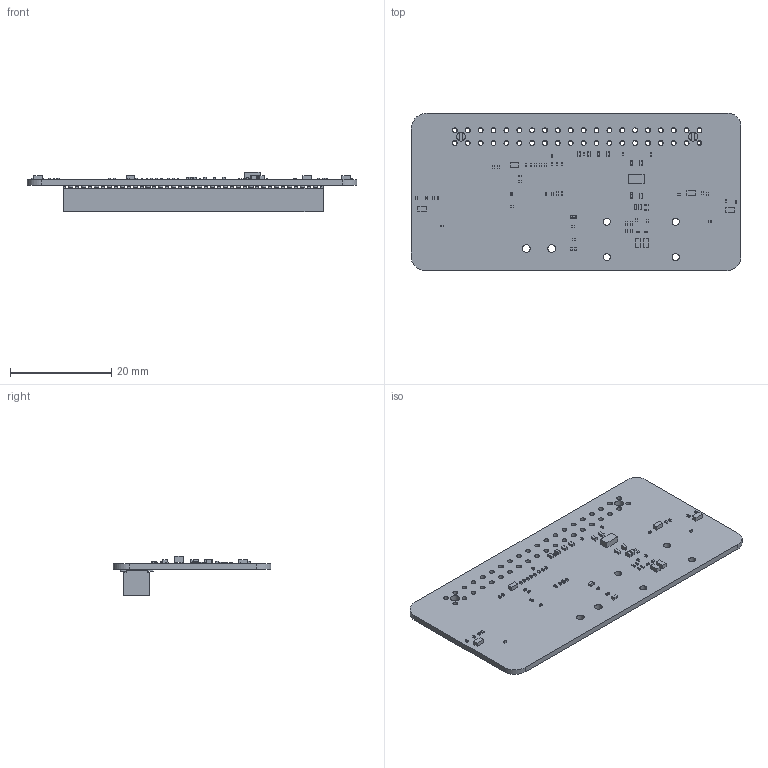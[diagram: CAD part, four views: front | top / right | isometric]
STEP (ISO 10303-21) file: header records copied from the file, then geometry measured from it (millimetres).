
FILE_DESCRIPTION(('Open CASCADE Model'),'2;1');
FILE_NAME('Open CASCADE Shape Model','2026-03-25T11:48:32',('Author'),( 'Open CASCADE'),'Open CASCADE STEP processor 6.8','Open CASCADE 6.8' ,'Unknown');
FILE_SCHEMA(('AUTOMOTIVE_DESIGN { 1 0 10303 214 1 1 1 1 }'));
Length unit declared in the file: millimetre
Products named in the file (93): PCB; Board; R229; 1113643376; Extruded; R228; R227; R226; R225; 1113643512; R224; C261; User_Library-Chip_Cap_MLCC_0201_(0603); L7; 1534788992; L3; L5; 1534788720; L4; L1; C202; C198; C25; C24; C23; C18; C17; C16; C14; C13; C12; C11; C10; C7; C30; C27; C31; C9; C22; C34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
Assembly tree (161 placements, depth 4):
  PCB
    Board
    R229
      1113643376
        Extruded
    R228
      1113643376
        Extruded
    R227
      1113643376
        Extruded
    R226
      1113643376
        Extruded
    R225
      1113643512
        Extruded
    R224
      1113643512
        Extruded
    C261
      User_Library-Chip_Cap_MLCC_0201_(0603)
    L7
      1534788992
        Extruded
    L3
      1534788992
        Extruded
    L5
      1534788720
        Extruded
    L4
      1534788720
        Extruded
    L1
      1534788992
        Extruded
    C202
      User_Library-Chip_Cap_MLCC_0201_(0603)
    C198
      User_Library-Chip_Cap_MLCC_0201_(0603)
    C25
      User_Library-Chip_Cap_MLCC_0201_(0603)
    C24
      User_Library-Chip_Cap_MLCC_0201_(0603)
    C23
      User_Library-Chip_Cap_MLCC_0201_(0603)
    C18
      User_Library-Chip_Cap_MLCC_0201_(0603)
    C17
      User_Library-Chip_Cap_MLCC_0201_(0603)
    C16
      User_Library-Chip_Cap_MLCC_0201_(0603)
    C14
      User_Library-Chip_Cap_MLCC_0201_(0603)
    C13
      User_Library-Chip_Cap_MLCC_0201_(0603)
    C12
      User_Library-Chip_Cap_MLCC_0201_(0603)
    C11
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Bounding box: 65.07 x 31.08 x 7.77 mm (x, y, z)
Volume: 3024.9 mm3; surface area: 6883.6 mm2
Topology: 84 solids, 84 shells, 3213 faces, 7991 edges, 4754 vertices
Faces by surface type: plane 1868, cylinder 1033, bspline 312
Full cylindrical faces by diameter (mm): 0.95 x40, 1.4 x4, 1.524 x2, 1.8 x2
Entity records: 133875 total; most frequent: CARTESIAN_POINT 37036, DIRECTION 13579, LINE 9005, VECTOR 9005, ORIENTED_EDGE 7318, PCURVE 7318, DEFINITIONAL_REPRESENTATION 7318, PRESENTATION_STYLE_ASSIGNMENT 4486
